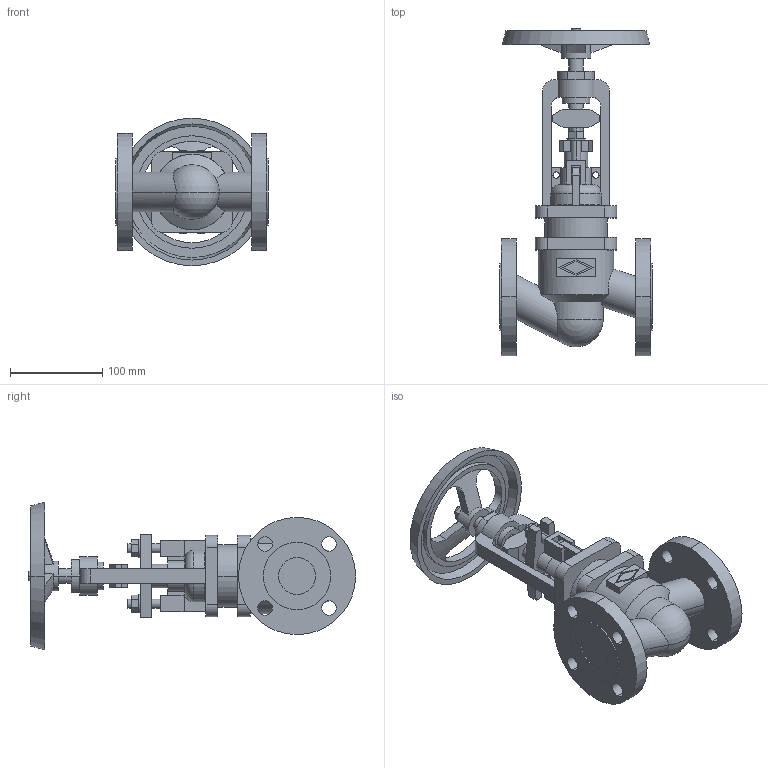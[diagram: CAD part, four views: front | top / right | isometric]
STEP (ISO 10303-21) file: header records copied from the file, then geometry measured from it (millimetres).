
FILE_DESCRIPTION(('OneSpaceDesigner STEP Export'),'2;1');
FILE_NAME('c000004223.stp','2010-04-30T 9:26:05',(''),(''),'OneSpace Designer STEP processor for AP214 (Solid Model)','OneSpace Modeling 15.50B 03-Nov-2007 (C) CoCreate Software GmbH','');
FILE_SCHEMA(('AUTOMOTIVE_DESIGN { 1 0 10303 214 1 1 1 1 }'));
Length unit declared in the file: millimetre
Products named in the file (1): 1
Bounding box: 165 x 354.9 x 160 mm (x, y, z)
Volume: 1560285.2 mm3; surface area: 224680.2 mm2
Topology: 1 solids, 1 shells, 289 faces, 758 edges, 497 vertices
Faces by surface type: plane 148, cylinder 111, cone 20, torus 8, sphere 2
Entity records: 11423 total; most frequent: CARTESIAN_POINT 2379, ORIENTED_EDGE 1512, DIRECTION 1243, EDGE_CURVE 756, VERTEX_POINT 497, VECTOR 427, LINE 427, AXIS2_PLACEMENT_3D 408
